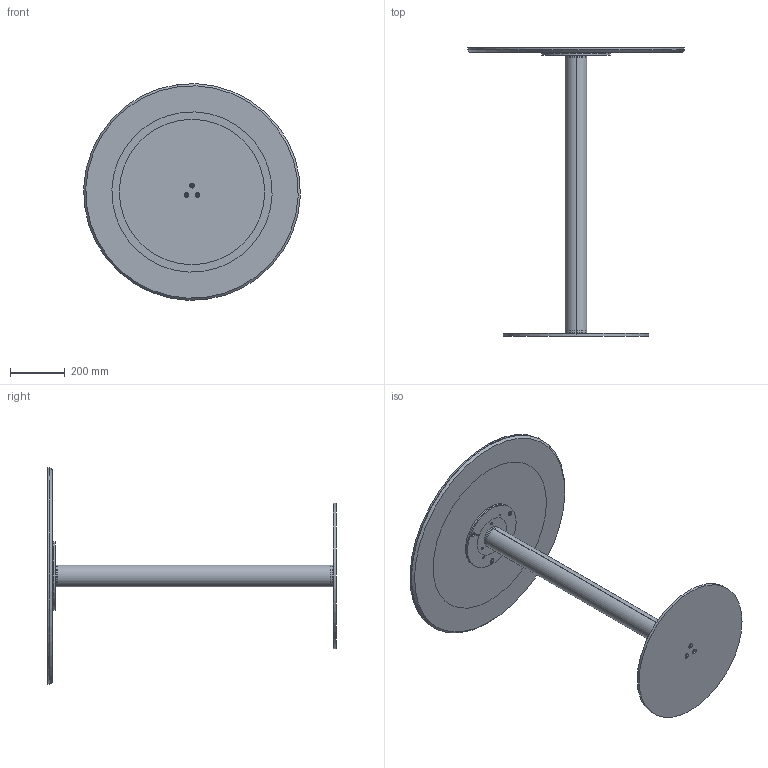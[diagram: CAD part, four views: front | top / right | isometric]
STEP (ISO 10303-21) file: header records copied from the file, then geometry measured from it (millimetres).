
FILE_DESCRIPTION (( 'STEP AP203' ), '1' );
FILE_NAME ('CB10C.STEP', '2024-08-08T08:48:40', ( '' ), ( '' ), 'SwSTEP 2.0', 'SolidWorks 2022', '' );
FILE_SCHEMA (( 'CONFIG_CONTROL_DESIGN' ));
Length unit declared in the file: millimetre
Products named in the file (11): CBS100000PST-00-CONTROPIASTRA PER PIASTRA D.15cm GREZZO; P0000006-00-PIASTRA D.150mm X PIANI CER_CRI_MARMO_PIASTRA; P0000003-00-STAFFA DI FISSAGGIO DIAMETRO 250_P0000003-250mm normale; CBSH00000COL-01-CILINDRO BISTRO COLONNA H105; K1XCMXX-00-Piani Rotondi in ceramica_D.600; KXXCXX-00-Piani Rotondi in ceramica CON PIASTRA_K01P PIANO CERAMICA D.60cm; CBS000000BAS-00-BISTRO PIASTRA INFERIORE_D.530; CBS200000PST-00-CONTROPIASTRA PER PIASTRA D.25cm GREZZO_250; KXXCXX-00-Piani Rotondi in ceramica CON PIASTRA_K12P PIANO CERAMICA D.79cm; K1XCMXX-00-Piani Rotondi in ceramica_D.790; CB10C
Assembly tree (10 placements, depth 3):
  CB10C
    CBS000000BAS-00-BISTRO PIASTRA INFERIORE_D.530
    CBSH00000COL-01-CILINDRO BISTRO COLONNA H105
    KXXCXX-00-Piani Rotondi in ceramica CON PIASTRA_K01P PIANO CERAMICA D.60cm
      K1XCMXX-00-Piani Rotondi in ceramica_D.600
      P0000006-00-PIASTRA D.150mm X PIANI CER_CRI_MARMO_PIASTRA
    KXXCXX-00-Piani Rotondi in ceramica CON PIASTRA_K12P PIANO CERAMICA D.79cm
      K1XCMXX-00-Piani Rotondi in ceramica_D.790
      P0000003-00-STAFFA DI FISSAGGIO DIAMETRO 250_P0000003-250mm normale
    CBS100000PST-00-CONTROPIASTRA PER PIASTRA D.15cm GREZZO
    CBS200000PST-00-CONTROPIASTRA PER PIASTRA D.25cm GREZZO_250
Bounding box: 789.44 x 1051 x 789.44 mm (x, y, z)
Volume: 15696923.4 mm3; surface area: 4398890.8 mm2
Topology: 12 solids, 12 shells, 154 faces, 354 edges, 224 vertices
Faces by surface type: cylinder 94, cone 36, plane 24
Entity records: 5751 total; most frequent: DIRECTION 916, CARTESIAN_POINT 747, ORIENTED_EDGE 708, AXIS2_PLACEMENT_3D 393, EDGE_CURVE 354, VERTEX_POINT 224, CIRCLE 224, EDGE_LOOP 224
